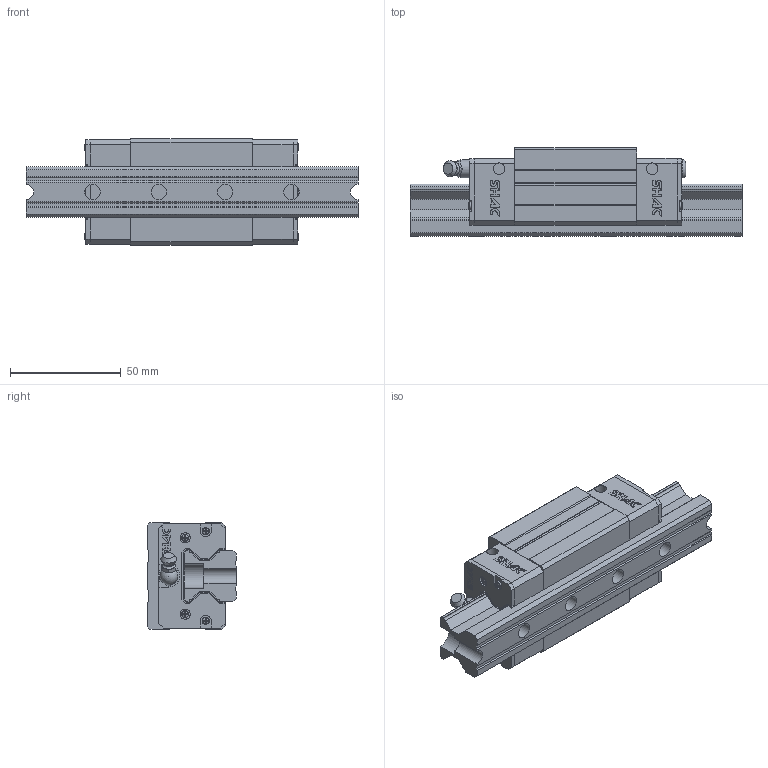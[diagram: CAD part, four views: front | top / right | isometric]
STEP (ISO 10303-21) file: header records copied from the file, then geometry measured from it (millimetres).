
FILE_DESCRIPTION( ( 'STEP AP214' ), '1' );
FILE_NAME( 'F:/品牌/SHAC 台湾鼎翰传动科技有限公司/3D滑块/GRH25SA1R150Z0CRC-0_0_1_1__.stp', '2025-04-21T22:51:42', ( 'License CC BY-ND 4.0' ), ( 'CADENAS' ), ' ', 'PARTsolutions', ' ' );
FILE_SCHEMA( ( 'AUTOMOTIVE_DESIGN { 1 0 10303 214 1 1 1 1 }' ) );
Length unit declared in the file: millimetre
Products named in the file (8): GRH25SA1R150Z0CRC-0/0(1_1_); _GR25R150-0/0(1)_RAIL; _GRH25SA_slider; _GRH25_C; _GRH25_P; _GR25_SCREW; _GH25_BOLT; _GH25-_G
Assembly tree (16 placements, depth 2):
  GRH25SA1R150Z0CRC-0/0(1_1_)
    _GR25R150-0/0(1)_RAIL
    _GRH25SA_slider
    _GRH25_C  x2
    _GRH25_P  x2
    _GR25_SCREW  x8
    _GH25_BOLT
    _GH25-_G
Bounding box: 150 x 40 x 48 mm (x, y, z)
Volume: 174146.1 mm3; surface area: 52411.8 mm2
Topology: 16 solids, 16 shells, 888 faces, 2383 edges, 1575 vertices
Faces by surface type: plane 718, cylinder 128, cone 22, torus 10, sphere 9, bspline 1
Full cylindrical faces by diameter (mm): 2.8 x4, 3 x4, 3.2 x8, 4.5 x1, 4.6 x4, 4.917 x6, 5 x2, 5.2 x4, 6 x2, 6.5 x2, 7 x4, 8 x1, 8.2 x1, 9.8 x2, 11 x4
Entity records: 19631 total; most frequent: CARTESIAN_POINT 2883, ORIENTED_EDGE 2582, DIRECTION 2502, EDGE_CURVE 1291, LINE 1060, VECTOR 1060, VERTEX_POINT 882, AXIS2_PLACEMENT_3D 721
